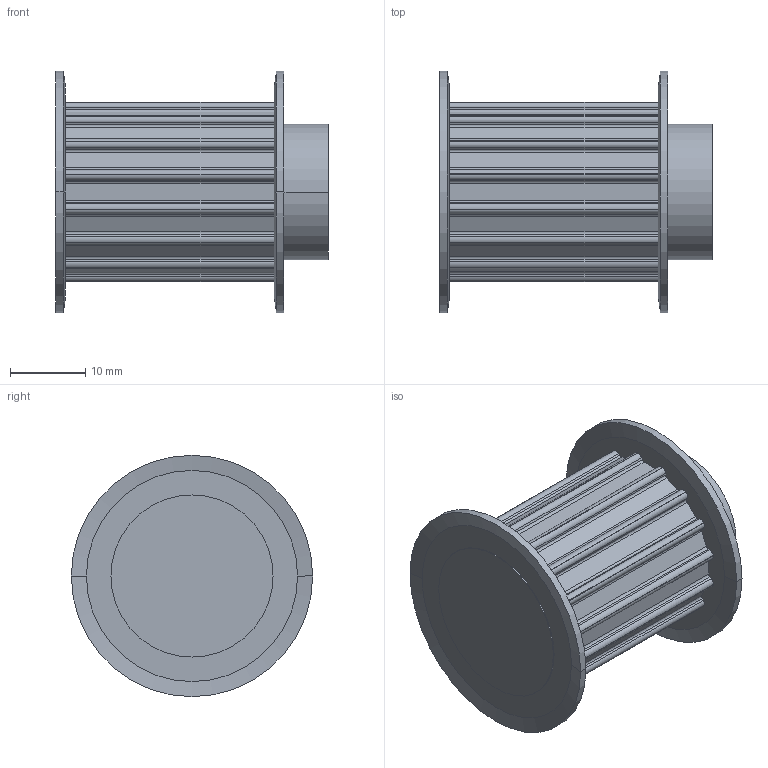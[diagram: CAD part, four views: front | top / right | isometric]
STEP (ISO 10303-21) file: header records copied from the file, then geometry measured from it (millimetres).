
FILE_DESCRIPTION( ( '' ), '1' );
FILE_NAME( 'C:/Users/Stangenbergd/Documents/CAD_Step/1/16641600.stp', '2021-10-19T09:37:42', ( '' ), ( '' ), ' ', ' ', ' ' );
FILE_SCHEMA( ( 'CONFIG_CONTROL_DESIGN' ) );
Length unit declared in the file: millimetre
Products named in the file (1): 1
Bounding box: 36.13 x 32 x 32 mm (x, y, z)
Volume: 14496.3 mm3; surface area: 5432.9 mm2
Topology: 1 solids, 1 shells, 169 faces, 478 edges, 316 vertices
Faces by surface type: plane 87, cylinder 74, cone 8
Entity records: 5548 total; most frequent: DIRECTION 974, CARTESIAN_POINT 964, ORIENTED_EDGE 956, EDGE_CURVE 478, AXIS2_PLACEMENT_3D 326, LINE 322, VECTOR 322, VERTEX_POINT 316
